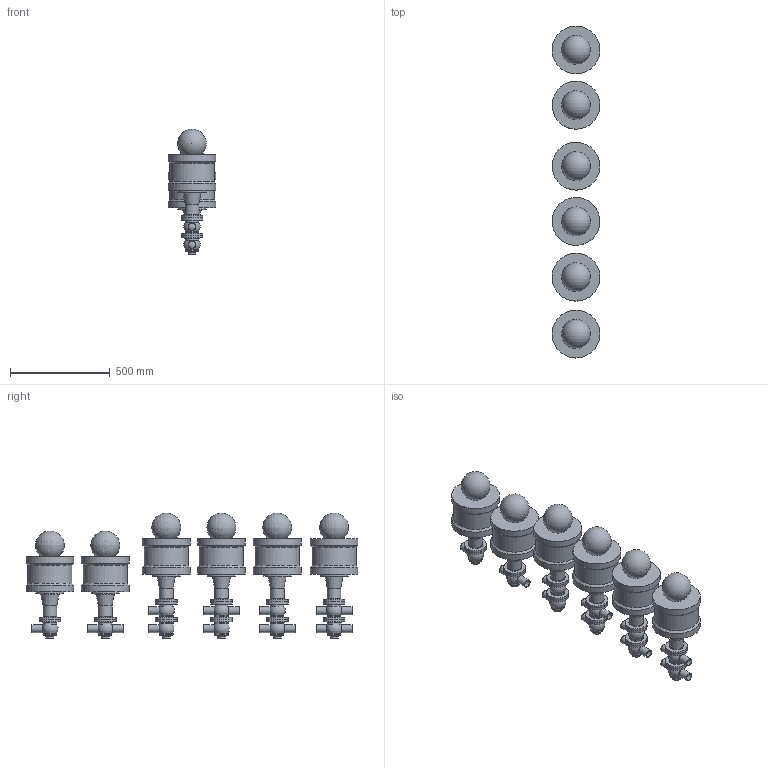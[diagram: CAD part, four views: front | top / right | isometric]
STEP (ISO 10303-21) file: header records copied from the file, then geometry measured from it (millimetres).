
FILE_DESCRIPTION(/* description */ (''),/* implementation_level */ '2;1');
FILE_NAME(/* name */ 'C:\Users\marz-m\Desktop\PDF\BBZQ 3D STEP\BBZQ-DN40-CIL.207.stp',/* time_stamp */ '2018-04-13T14:52:32+02:00',/* author */ ('marz-m'),/* organization */ (''),/* preprocessor_version */ 'ST-DEVELOPER v17',/* originating_system */ 'Autodesk Inventor 2018',/* authorisation */ '');
FILE_SCHEMA (('AUTOMOTIVE_DESIGN { 1 0 10303 214 3 1 1 }'));
Length unit declared in the file: millimetre
Products named in the file (8): BBZQ-CIL.156-DN40; COR-INF-L-BBZQ-DN40X2.5-SALD; COR-INF-T-BBZQ-DN40X2.5-SALD; assemblaggio dn40 per cil 207-360; CILINDRO 207; SAGOMA-GIOTTO-; CORPO-SUP-SUP-BBZQ-L-DN40-SALD; CORPO-SUP-SUP-BBZQ-T-DN40-SALD
Assembly tree (28 placements, depth 2):
  BBZQ-CIL.156-DN40
    COR-INF-L-BBZQ-DN40X2.5-SALD  x3
    COR-INF-T-BBZQ-DN40X2.5-SALD  x3
    assemblaggio dn40 per cil 207-360  x6
    CILINDRO 207  x6
    SAGOMA-GIOTTO-  x6
    CORPO-SUP-SUP-BBZQ-L-DN40-SALD  x2
    CORPO-SUP-SUP-BBZQ-T-DN40-SALD  x2
Bounding box: 240 x 1665.61 x 630.51 mm (x, y, z)
Volume: 62981034.5 mm3; surface area: 2844986.4 mm2
Topology: 28 solids, 28 shells, 320 faces, 741 edges, 546 vertices
Faces by surface type: cylinder 121, plane 112, torus 32, sphere 31, cone 24
Full cylindrical faces by diameter (mm): 25.4 x6, 35 x18, 40 x21, 68 x20, 69 x6, 69.8 x6, 109 x20, 141 x6, 221 x6, 240 x12
Entity records: 3286 total; most frequent: DIRECTION 646, CARTESIAN_POINT 501, ORIENTED_EDGE 426, AXIS2_PLACEMENT_3D 302, EDGE_CURVE 213, CIRCLE 171, VERTEX_POINT 157, EDGE_LOOP 120
